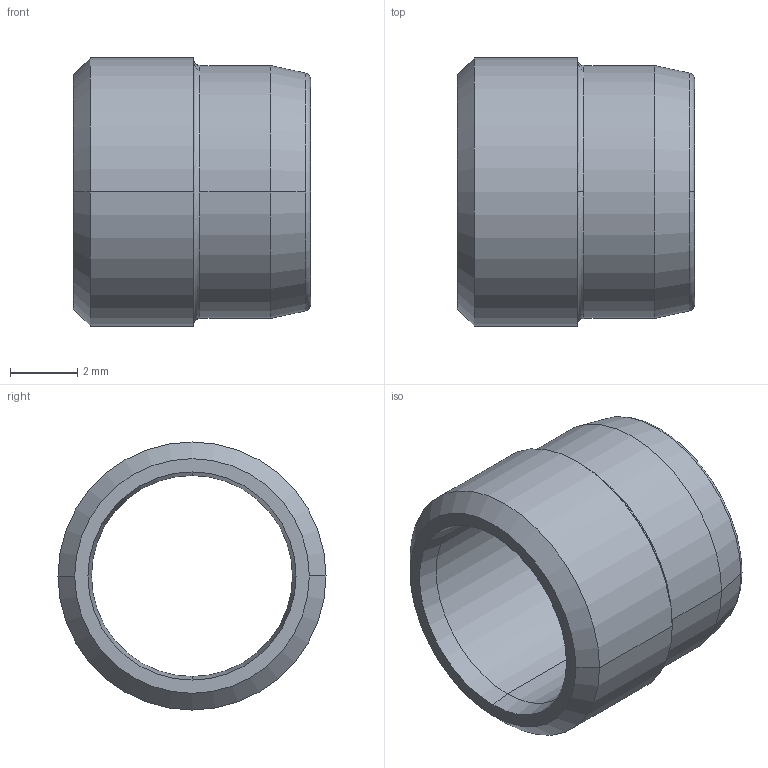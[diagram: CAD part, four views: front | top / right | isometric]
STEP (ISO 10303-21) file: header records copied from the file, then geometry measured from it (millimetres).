
FILE_DESCRIPTION((''),'2;1');
FILE_NAME('100102.stp','2006-03-06T15:08:03',('Dario Falcomer'),('CAST S.p.A.'),'AutoCAD STEP 2000i','AutoCAD 2000i',', , ');
FILE_SCHEMA(('CONFIG_CONTROL_DESIGN'));
Length unit declared in the file: millimetre
Products named in the file (2): 100102.0; 1001ESTERNO#0
Assembly tree (1 placements, depth 2):
  100102.0
    1001ESTERNO#0
Bounding box: 7.08 x 8 x 8 mm (x, y, z)
Volume: 126.3 mm3; surface area: 337.6 mm2
Topology: 1 solids, 1 shells, 26 faces, 61 edges, 39 vertices
Faces by surface type: cone 8, bspline 6, cylinder 6, plane 4, torus 2
Entity records: 1125 total; most frequent: CARTESIAN_POINT 392, DIRECTION 152, ORIENTED_EDGE 122, AXIS2_PLACEMENT_3D 69, EDGE_CURVE 61, CIRCLE 47, VERTEX_POINT 39, EDGE_LOOP 30
